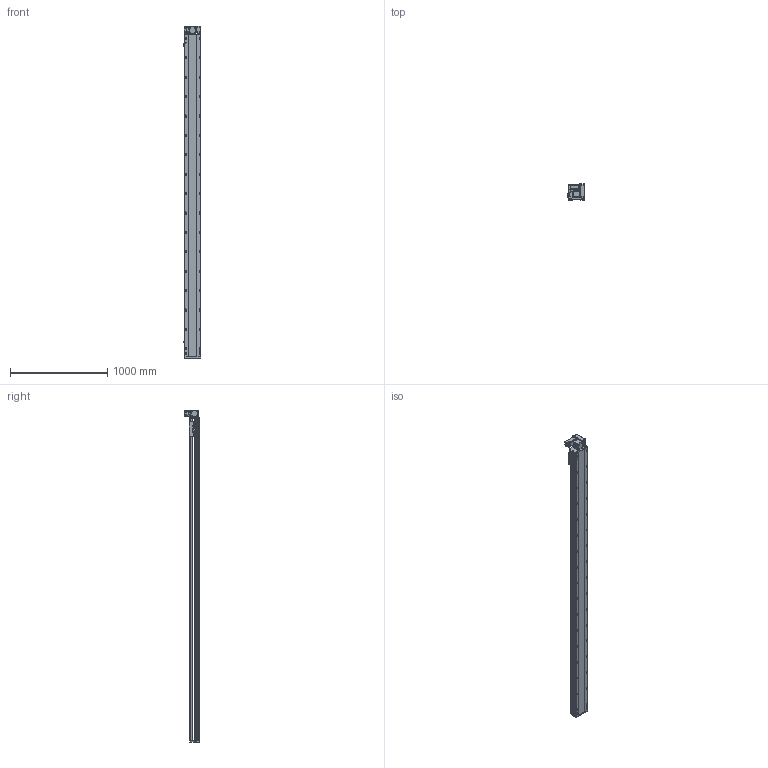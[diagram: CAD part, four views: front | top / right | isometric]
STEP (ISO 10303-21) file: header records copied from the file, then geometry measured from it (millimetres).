
FILE_DESCRIPTION (( 'STEP AP214' ), '1' );
FILE_NAME ('RTB17S-XX-3050-RW-M40-C4.STEP', '2025-12-11T09:17:20', ( '' ), ( '' ), 'SwSTEP 2.0', 'SolidWorks 2018', '' );
FILE_SCHEMA (( 'AUTOMOTIVE_DESIGN' ));
Length unit declared in the file: millimetre
Products named in the file (14): RTB14-L-005P--轴承塑胶压盖^RTB17S-RW-皮带座装配-400W_RTB17S-XX-XX-RW-M40-C4; RTH13-BL-012覜茼え俋离^RTB17S-XX-XX-RW-M40-C4; 400W侜督萇儂^RTB17S-XX-XX-RW-M40-C4; RTB14-L-018P^RTB17S-RW-々湍釱蚾饜-400W_RTB17S-XX-XX-RW-M40-C4; RMP17S-L-014-T20--々湍釱^RTB17S-RW-々湍釱蚾饜-400W_RTB17S-XX-XX-RW-M40-C4; RTB17-R-011菁釱^RTB17S-XX-XX-RW-M40-C4; RTB14-L-008-M20--萇儂啣^RTB17S-RW-々湍釱蚾饜-400W_RTB17S-XX-XX-RW-M40-C4; RTB17S-RW-々湍釱蚾饜-400W^RTB17S-XX-XX-RW-M40-C4; RTB17S-XX-3050-RW-M40-C4; RTB17S-L-001耜醱啣^RTB17S-XX-XX-RW-M40-C4; RTB17S-L-004佪裝蹟譫蟀諉釱^RTB17S-XX-XX-RW-M40-C4; RTB17S-L-007奻裔^RTB17S-XX-XX-RW-M40-C4; RTB14-L-017P^RTB17S-RW-々湍釱蚾饜-400W_RTB17S-XX-XX-RW-M40-C4; OMRON EE-SX672 传感器^RTB17S-XX-XX-RW-M40-C4
Assembly tree (16 placements, depth 3):
  RTB17S-XX-3050-RW-M40-C4
    RTB17-R-011菁釱^RTB17S-XX-XX-RW-M40-C4
    RTB17S-L-007奻裔^RTB17S-XX-XX-RW-M40-C4
    OMRON EE-SX672 传感器^RTB17S-XX-XX-RW-M40-C4  x3
    RTB17S-L-001耜醱啣^RTB17S-XX-XX-RW-M40-C4
    400W侜督萇儂^RTB17S-XX-XX-RW-M40-C4
    RTB17S-L-004佪裝蹟譫蟀諉釱^RTB17S-XX-XX-RW-M40-C4
    RTH13-BL-012覜茼え俋离^RTB17S-XX-XX-RW-M40-C4
    RTB17S-RW-々湍釱蚾饜-400W^RTB17S-XX-XX-RW-M40-C4
      RMP17S-L-014-T20--々湍釱^RTB17S-RW-々湍釱蚾饜-400W_RTB17S-XX-XX-RW-M40-C4
      RTB14-L-005P--轴承塑胶压盖^RTB17S-RW-皮带座装配-400W_RTB17S-XX-XX-RW-M40-C4
      RTB14-L-008-M20--萇儂啣^RTB17S-RW-々湍釱蚾饜-400W_RTB17S-XX-XX-RW-M40-C4
      RTB14-L-017P^RTB17S-RW-々湍釱蚾饜-400W_RTB17S-XX-XX-RW-M40-C4  x2
      RTB14-L-018P^RTB17S-RW-々湍釱蚾饜-400W_RTB17S-XX-XX-RW-M40-C4
Bounding box: 183.5 x 160.5 x 3422.5 mm (x, y, z)
Volume: 29086677.9 mm3; surface area: 3322910.8 mm2
Topology: 15 solids, 15 shells, 2381 faces, 6681 edges, 4365 vertices
Faces by surface type: plane 1090, cylinder 843, bspline 301, cone 139, torus 8
Entity records: 71081 total; most frequent: CARTESIAN_POINT 20286, ORIENTED_EDGE 10206, DIRECTION 9386, EDGE_CURVE 5103, VERTEX_POINT 3353, AXIS2_PLACEMENT_3D 3283, LINE 2820, VECTOR 2820
